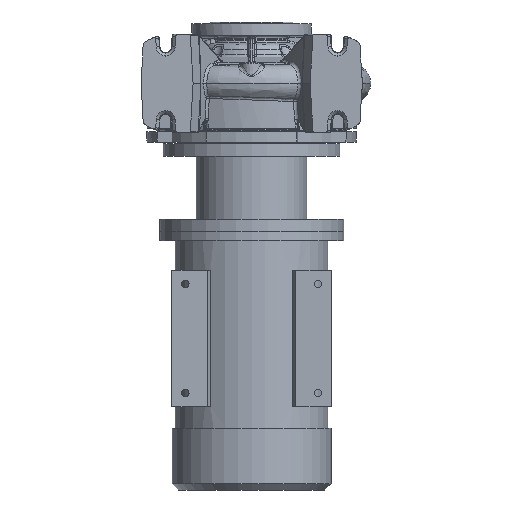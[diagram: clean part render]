
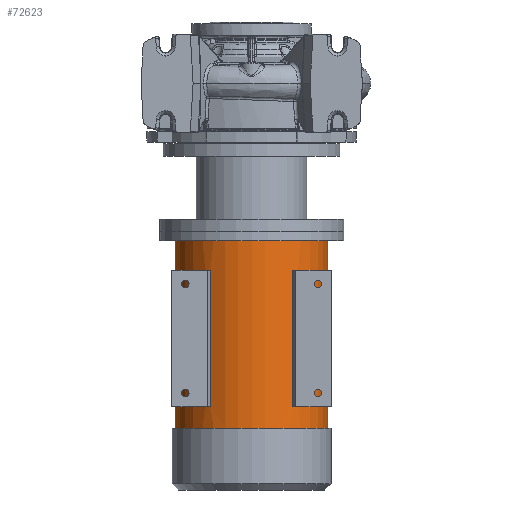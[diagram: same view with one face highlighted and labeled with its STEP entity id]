
A CAD part, front view. The second image highlights one B-rep face of the part: STEP entity #72623.
In plain terms, the highlighted cylindrical face has radius 124.5 mm (diameter 249 mm), a partial arc.
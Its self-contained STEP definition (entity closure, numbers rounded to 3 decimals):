
#219 = CIRCLE ( 'NONE', #36725, 124.5 ) ;
#416 = LINE ( 'NONE', #25087, #58380 ) ;
#1529 = CIRCLE ( 'NONE', #44494, 124.5 ) ;
#2763 = ORIENTED_EDGE ( 'NONE', *, *, #61503, .T. ) ;
#3260 = ORIENTED_EDGE ( 'NONE', *, *, #37998, .F. ) ;
#5440 = CIRCLE ( 'NONE', #85037, 124.5 ) ;
#6168 = DIRECTION ( 'NONE',  ( 1., 0., 0. ) ) ;
#6839 = CIRCLE ( 'NONE', #34588, 124.5 ) ;
#7966 = EDGE_CURVE ( 'NONE', #78119, #76916, #85556, .T. ) ;
#10186 = EDGE_CURVE ( 'NONE', #70003, #42483, #6839, .T. ) ;
#10632 = ORIENTED_EDGE ( 'NONE', *, *, #35422, .T. ) ;
#10821 = CARTESIAN_POINT ( 'NONE',  ( 124.5, 0., -256.8 ) ) ;
#10922 = CARTESIAN_POINT ( 'NONE',  ( 66.829, -105.044, -526.8 ) ) ;
#11546 = EDGE_LOOP ( 'NONE', ( #3260, #73932, #10632, #35090 ) ) ;
#12780 = DIRECTION ( 'NONE',  ( 0., 0., -1. ) ) ;
#14399 = CYLINDRICAL_SURFACE ( 'NONE', #77370, 124.5 ) ;
#16665 = AXIS2_PLACEMENT_3D ( 'NONE', #23292, #66494, #74097 ) ;
#17818 = CARTESIAN_POINT ( 'NONE',  ( -75.873, -98.709, -304.8 ) ) ;
#17943 = LINE ( 'NONE', #69773, #49804 ) ;
#20735 = DIRECTION ( 'NONE',  ( -1., 0., 0. ) ) ;
#22312 = VECTOR ( 'NONE', #45331, 1000. ) ;
#22656 = AXIS2_PLACEMENT_3D ( 'NONE', #87092, #43590, #20735 ) ;
#23292 = CARTESIAN_POINT ( 'NONE',  ( 0., 0., -304.8 ) ) ;
#23460 = ORIENTED_EDGE ( 'NONE', *, *, #55007, .T. ) ;
#24649 = CARTESIAN_POINT ( 'NONE',  ( 66.829, -105.044, -662.8 ) ) ;
#25072 = CARTESIAN_POINT ( 'NONE',  ( 66.829, -105.044, -304.8 ) ) ;
#25087 = CARTESIAN_POINT ( 'NONE',  ( -66.829, -105.044, -662.8 ) ) ;
#26288 = DIRECTION ( 'NONE',  ( 0., 0., -1. ) ) ;
#27585 = VECTOR ( 'NONE', #29724, 1000. ) ;
#28048 = EDGE_CURVE ( 'NONE', #50228, #74585, #416, .T. ) ;
#29724 = DIRECTION ( 'NONE',  ( 0., 0., -1. ) ) ;
#30533 = LINE ( 'NONE', #92493, #45292 ) ;
#31767 = CIRCLE ( 'NONE', #16665, 124.5 ) ;
#34055 = VERTEX_POINT ( 'NONE', #10922 ) ;
#34416 = CARTESIAN_POINT ( 'NONE',  ( 75.873, -98.709, -304.8 ) ) ;
#34588 = AXIS2_PLACEMENT_3D ( 'NONE', #48140, #92244, #55445 ) ;
#34791 = CARTESIAN_POINT ( 'NONE',  ( 0., 0., -304.8 ) ) ;
#35090 = ORIENTED_EDGE ( 'NONE', *, *, #10186, .F. ) ;
#35136 = CARTESIAN_POINT ( 'NONE',  ( -66.829, -105.044, -304.8 ) ) ;
#35422 = EDGE_CURVE ( 'NONE', #46846, #42483, #30533, .T. ) ;
#36725 = AXIS2_PLACEMENT_3D ( 'NONE', #50974, #81099, #79882 ) ;
#37960 = CARTESIAN_POINT ( 'NONE',  ( 75.873, -98.709, -662.8 ) ) ;
#37998 = EDGE_CURVE ( 'NONE', #58443, #70003, #17943, .T. ) ;
#38292 = VECTOR ( 'NONE', #58940, 1000. ) ;
#38676 = CARTESIAN_POINT ( 'NONE',  ( -75.873, -98.709, -526.8 ) ) ;
#39675 = EDGE_CURVE ( 'NONE', #58443, #46846, #54249, .T. ) ;
#40681 = EDGE_CURVE ( 'NONE', #42989, #64882, #57658, .T. ) ;
#41454 = DIRECTION ( 'NONE',  ( 0., 0., 1. ) ) ;
#42483 = VERTEX_POINT ( 'NONE', #69108 ) ;
#42989 = VERTEX_POINT ( 'NONE', #34416 ) ;
#43590 = DIRECTION ( 'NONE',  ( 0., 0., -1. ) ) ;
#44494 = AXIS2_PLACEMENT_3D ( 'NONE', #34791, #41454, #92229 ) ;
#45292 = VECTOR ( 'NONE', #12780, 1000. ) ;
#45331 = DIRECTION ( 'NONE',  ( 0., 0., 1. ) ) ;
#46846 = VERTEX_POINT ( 'NONE', #54725 ) ;
#48140 = CARTESIAN_POINT ( 'NONE',  ( 0., 0., -561.8 ) ) ;
#49680 = FACE_BOUND ( 'NONE', #82822, .T. ) ;
#49804 = VECTOR ( 'NONE', #26288, 1000. ) ;
#50118 = EDGE_LOOP ( 'NONE', ( #90013, #2763, #23460, #54957 ) ) ;
#50228 = VERTEX_POINT ( 'NONE', #93983 ) ;
#50974 = CARTESIAN_POINT ( 'NONE',  ( 0., 0., -526.8 ) ) ;
#54249 = CIRCLE ( 'NONE', #22656, 124.5 ) ;
#54725 = CARTESIAN_POINT ( 'NONE',  ( -124.5, 0., -256.8 ) ) ;
#54957 = ORIENTED_EDGE ( 'NONE', *, *, #40681, .T. ) ;
#55007 = EDGE_CURVE ( 'NONE', #93654, #42989, #1529, .T. ) ;
#55445 = DIRECTION ( 'NONE',  ( -1., 0., 0. ) ) ;
#57008 = DIRECTION ( 'NONE',  ( 0., 0., -1. ) ) ;
#57658 = LINE ( 'NONE', #37960, #38292 ) ;
#58380 = VECTOR ( 'NONE', #61618, 1000. ) ;
#58443 = VERTEX_POINT ( 'NONE', #10821 ) ;
#58690 = LINE ( 'NONE', #24649, #22312 ) ;
#58940 = DIRECTION ( 'NONE',  ( 0., 0., -1. ) ) ;
#60036 = DIRECTION ( 'NONE',  ( 0., 0., -1. ) ) ;
#61503 = EDGE_CURVE ( 'NONE', #34055, #93654, #58690, .T. ) ;
#61618 = DIRECTION ( 'NONE',  ( 0., 0., 1. ) ) ;
#62499 = ORIENTED_EDGE ( 'NONE', *, *, #7966, .F. ) ;
#64882 = VERTEX_POINT ( 'NONE', #81962 ) ;
#66494 = DIRECTION ( 'NONE',  ( 0., 0., -1. ) ) ;
#67775 = ORIENTED_EDGE ( 'NONE', *, *, #28048, .F. ) ;
#69108 = CARTESIAN_POINT ( 'NONE',  ( -124.5, 0., -561.8 ) ) ;
#69311 = ORIENTED_EDGE ( 'NONE', *, *, #78530, .F. ) ;
#69773 = CARTESIAN_POINT ( 'NONE',  ( 124.5, 0., -662.8 ) ) ;
#70003 = VERTEX_POINT ( 'NONE', #73519 ) ;
#72364 = FACE_BOUND ( 'NONE', #50118, .T. ) ;
#72623 = ADVANCED_FACE ( 'NONE', ( #91669, #72364, #49680 ), #14399, .T. ) ;
#73364 = DIRECTION ( 'NONE',  ( -1., 0., 0. ) ) ;
#73519 = CARTESIAN_POINT ( 'NONE',  ( 124.5, 0., -561.8 ) ) ;
#73932 = ORIENTED_EDGE ( 'NONE', *, *, #39675, .T. ) ;
#73977 = CARTESIAN_POINT ( 'NONE',  ( 0., 0., -662.8 ) ) ;
#74097 = DIRECTION ( 'NONE',  ( 1., 0., 0. ) ) ;
#74585 = VERTEX_POINT ( 'NONE', #35136 ) ;
#76916 = VERTEX_POINT ( 'NONE', #38676 ) ;
#77370 = AXIS2_PLACEMENT_3D ( 'NONE', #73977, #60036, #73364 ) ;
#78119 = VERTEX_POINT ( 'NONE', #17818 ) ;
#78530 = EDGE_CURVE ( 'NONE', #74585, #78119, #31767, .T. ) ;
#79037 = ORIENTED_EDGE ( 'NONE', *, *, #82697, .T. ) ;
#79882 = DIRECTION ( 'NONE',  ( -1., 0., 0. ) ) ;
#80527 = CARTESIAN_POINT ( 'NONE',  ( -75.873, -98.709, -662.8 ) ) ;
#81099 = DIRECTION ( 'NONE',  ( 0., 0., 1. ) ) ;
#81962 = CARTESIAN_POINT ( 'NONE',  ( 75.873, -98.709, -526.8 ) ) ;
#82697 = EDGE_CURVE ( 'NONE', #50228, #76916, #5440, .T. ) ;
#82822 = EDGE_LOOP ( 'NONE', ( #67775, #79037, #62499, #69311 ) ) ;
#85037 = AXIS2_PLACEMENT_3D ( 'NONE', #87133, #57008, #6168 ) ;
#85556 = LINE ( 'NONE', #80527, #27585 ) ;
#87092 = CARTESIAN_POINT ( 'NONE',  ( 0., 0., -256.8 ) ) ;
#87133 = CARTESIAN_POINT ( 'NONE',  ( 0., 0., -526.8 ) ) ;
#90013 = ORIENTED_EDGE ( 'NONE', *, *, #92559, .F. ) ;
#91669 = FACE_OUTER_BOUND ( 'NONE', #11546, .T. ) ;
#92229 = DIRECTION ( 'NONE',  ( -1., 0., 0. ) ) ;
#92244 = DIRECTION ( 'NONE',  ( 0., 0., -1. ) ) ;
#92493 = CARTESIAN_POINT ( 'NONE',  ( -124.5, 0., -662.8 ) ) ;
#92559 = EDGE_CURVE ( 'NONE', #34055, #64882, #219, .T. ) ;
#93654 = VERTEX_POINT ( 'NONE', #25072 ) ;
#93983 = CARTESIAN_POINT ( 'NONE',  ( -66.829, -105.044, -526.8 ) ) ;
